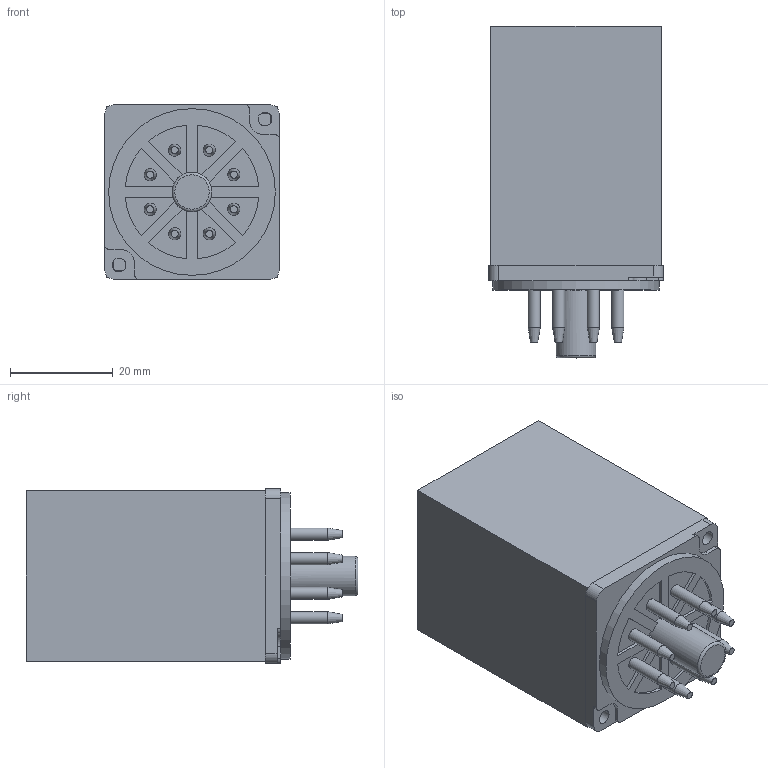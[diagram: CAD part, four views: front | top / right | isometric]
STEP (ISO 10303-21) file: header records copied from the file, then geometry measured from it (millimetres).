
FILE_DESCRIPTION(/* description */ (''),/* implementation_level */ '2;1');
FILE_NAME(/* name */ 'E:\Inventor 2016\제품 외형도\\X2\B9B4B808C774\X0\\콘트롤 릴레이\YS MR07-2P.stp',/* time_stamp */ '2019-04-09T10:11:11+09:00',/* author */ ('Kim'),/* organization */ (''),/* preprocessor_version */ 'ST-DEVELOPER v16.1',/* originating_system */ 'Autodesk Inventor 2016',/* authorisation */ '');
FILE_SCHEMA (('AUTOMOTIVE_DESIGN { 1 0 10303 214 3 1 1 }'));
Length unit declared in the file: millimetre
Products named in the file (3): MR 하부 (8p); COVER; YS MR07-2P
Assembly tree (2 placements, depth 2):
  YS MR07-2P
    MR 하부 (8p)
    COVER
Bounding box: 34 x 64.5 x 34 mm (x, y, z)
Volume: 14944.6 mm3; surface area: 18129.7 mm2
Topology: 2 solids, 2 shells, 110 faces, 276 edges, 181 vertices
Faces by surface type: plane 67, cylinder 34, cone 8, torus 1
Full cylindrical faces by diameter (mm): 2.4 x8, 2.7 x2, 7.7 x1, 32.4 x1
Entity records: 3287 total; most frequent: DIRECTION 576, CARTESIAN_POINT 545, ORIENTED_EDGE 504, EDGE_CURVE 252, AXIS2_PLACEMENT_3D 209, VERTEX_POINT 178, LINE 158, VECTOR 158
